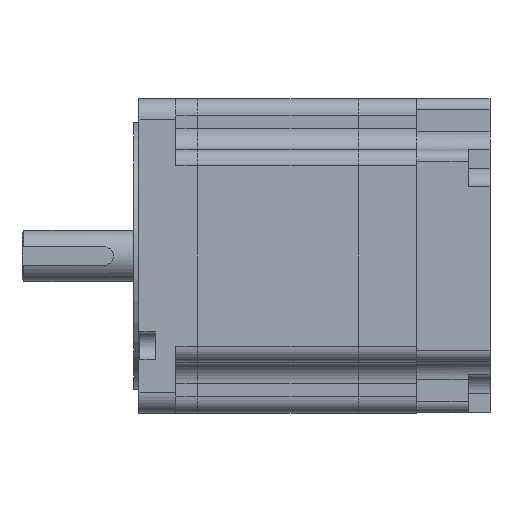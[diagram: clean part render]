
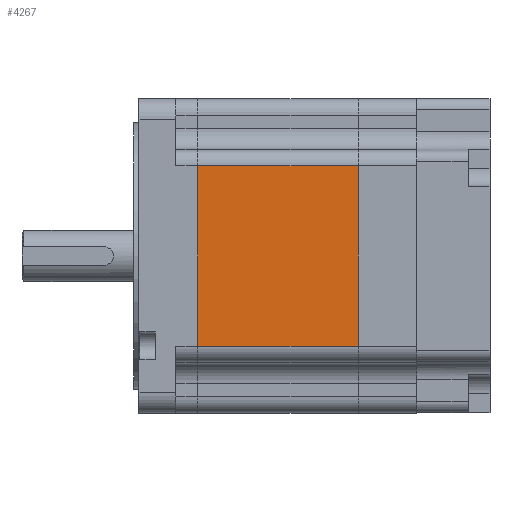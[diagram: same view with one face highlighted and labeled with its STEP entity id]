
A CAD part, left-side view. The second image highlights one B-rep face of the part: STEP entity #4267.
In plain terms, the highlighted planar face has unit normal (-1, 0, 0).
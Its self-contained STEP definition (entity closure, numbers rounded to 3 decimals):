
#115 = EDGE_LOOP ( 'NONE', ( #4947, #5501, #13091, #12467 ) ) ;
#349 = EDGE_CURVE ( 'NONE', #3748, #11117, #2880, .T. ) ;
#622 = CARTESIAN_POINT ( 'NONE',  ( -43., -6.008, -24.65 ) ) ;
#2061 = CARTESIAN_POINT ( 'NONE',  ( -43., -49.992, 37.3 ) ) ;
#2515 = PLANE ( 'NONE',  #9068 ) ;
#2880 = LINE ( 'NONE', #2061, #5970 ) ;
#3441 = DIRECTION ( 'NONE',  ( 0., 1., 0. ) ) ;
#3674 = DIRECTION ( 'NONE',  ( 0., 0., 1. ) ) ;
#3748 = VERTEX_POINT ( 'NONE', #8388 ) ;
#3846 = DIRECTION ( 'NONE',  ( 0., 1., 0. ) ) ;
#4267 = ADVANCED_FACE ( 'NONE', ( #8187 ), #2515, .F. ) ;
#4552 = CARTESIAN_POINT ( 'NONE',  ( -43., -66., -24.65 ) ) ;
#4728 = CARTESIAN_POINT ( 'NONE',  ( -43., -49.992, -24.65 ) ) ;
#4808 = VECTOR ( 'NONE', #3674, 1000. ) ;
#4947 = ORIENTED_EDGE ( 'NONE', *, *, #349, .F. ) ;
#5403 = DIRECTION ( 'NONE',  ( 0., 0., -1. ) ) ;
#5501 = ORIENTED_EDGE ( 'NONE', *, *, #10387, .T. ) ;
#5516 = VERTEX_POINT ( 'NONE', #13586 ) ;
#5970 = VECTOR ( 'NONE', #5403, 1000. ) ;
#6217 = CARTESIAN_POINT ( 'NONE',  ( -43., 10., 37.3 ) ) ;
#7362 = EDGE_CURVE ( 'NONE', #11117, #12119, #12309, .T. ) ;
#7409 = DIRECTION ( 'NONE',  ( 1., 0., 0. ) ) ;
#8187 = FACE_OUTER_BOUND ( 'NONE', #115, .T. ) ;
#8388 = CARTESIAN_POINT ( 'NONE',  ( -43., -49.992, 24.65 ) ) ;
#8912 = VECTOR ( 'NONE', #3846, 1000. ) ;
#9068 = AXIS2_PLACEMENT_3D ( 'NONE', #6217, #7409, #12016 ) ;
#9320 = EDGE_CURVE ( 'NONE', #12119, #5516, #9357, .T. ) ;
#9357 = LINE ( 'NONE', #13972, #4808 ) ;
#10387 = EDGE_CURVE ( 'NONE', #3748, #5516, #12013, .T. ) ;
#11117 = VERTEX_POINT ( 'NONE', #4728 ) ;
#12013 = LINE ( 'NONE', #14130, #8912 ) ;
#12016 = DIRECTION ( 'NONE',  ( 0., 0., -1. ) ) ;
#12119 = VERTEX_POINT ( 'NONE', #622 ) ;
#12309 = LINE ( 'NONE', #4552, #13776 ) ;
#12467 = ORIENTED_EDGE ( 'NONE', *, *, #7362, .F. ) ;
#13091 = ORIENTED_EDGE ( 'NONE', *, *, #9320, .F. ) ;
#13586 = CARTESIAN_POINT ( 'NONE',  ( -43., -6.008, 24.65 ) ) ;
#13776 = VECTOR ( 'NONE', #3441, 1000. ) ;
#13972 = CARTESIAN_POINT ( 'NONE',  ( -43., -6.008, 37.3 ) ) ;
#14130 = CARTESIAN_POINT ( 'NONE',  ( -43., -66., 24.65 ) ) ;
